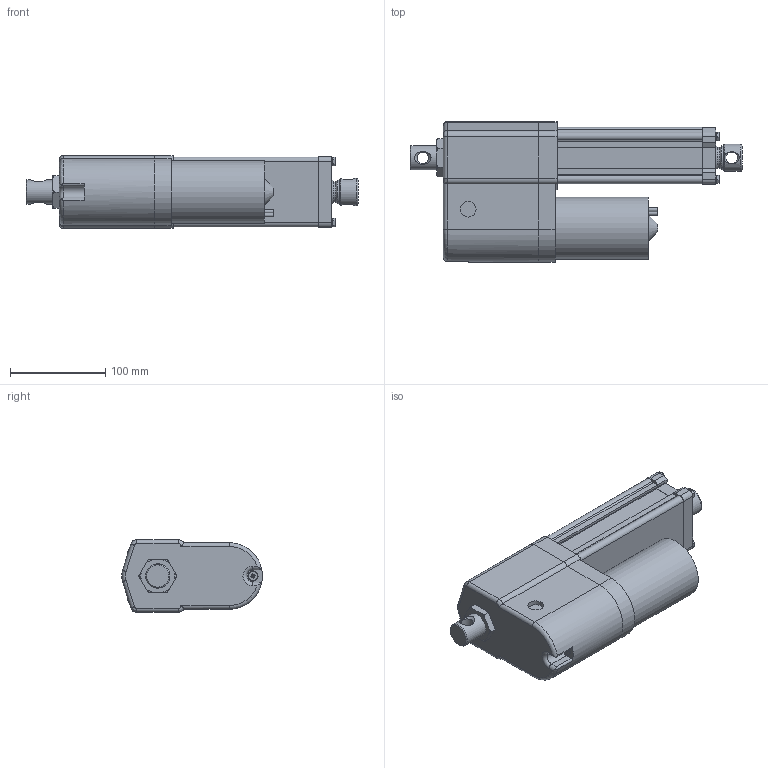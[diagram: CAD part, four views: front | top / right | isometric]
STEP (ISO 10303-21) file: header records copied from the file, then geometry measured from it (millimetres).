
FILE_DESCRIPTION( ( 'STEP AP203' ), '1' );
FILE_NAME( 'p:/temp/worker_280/temp/exporttempdir_4908_1655_BR1aL/format_0/DA24-21B65M05M0NPO-AMM.stp', '2020-04-12T18:20:58', ( 'License CC BY-ND 4.0' ), ( 'CADENAS' ), ' ', 'PARTsolutions', ' ' );
FILE_SCHEMA( ( 'CONFIG_CONTROL_DESIGN' ) );
Length unit declared in the file: millimetre
Products named in the file (8): DA24-21B65M05M0NPO-AMM; _ELECTRAK-LA14-DA24-21B65MM0NPO-05M-EU-REAR; _Electrak-10-EU-RA-D602700; _D602768eu; _ELECTRAK-LA14-DA24--MOTOR; _DA24-21B65M05M0NPOAMMtube; _ELECTRAK-LA14-DA24--05-PLATE; _ELECTRAK-LA14-DA24--0521B65MNPOM-ROD
Assembly tree (7 placements, depth 2):
  DA24-21B65M05M0NPO-AMM
    _ELECTRAK-LA14-DA24-21B65MM0NPO-05M-EU-REAR
    _Electrak-10-EU-RA-D602700
    _D602768eu
    _ELECTRAK-LA14-DA24--MOTOR
    _DA24-21B65M05M0NPOAMMtube
    _ELECTRAK-LA14-DA24--05-PLATE
    _ELECTRAK-LA14-DA24--0521B65MNPOM-ROD
Bounding box: 348.95 x 148 x 76.2 mm (x, y, z)
Volume: 1815080.2 mm3; surface area: 250781.9 mm2
Topology: 7 solids, 8 shells, 378 faces, 942 edges, 611 vertices
Faces by surface type: plane 184, cylinder 131, cone 45, torus 14, bspline 4
Full cylindrical faces by diameter (mm): 4 x2, 4.126 x1, 4.8 x5, 5 x5, 5.6 x4, 7.878 x4, 9.398 x1, 12.2 x2, 16 x1, 16.5 x1, 21.8 x1, 25.2 x1, 25.4 x1, 26.24 x1, 28.5 x1, 28.6 x2, 47.625 x1, 65.3 x1
Entity records: 11834 total; most frequent: CARTESIAN_POINT 2729, DIRECTION 1869, ORIENTED_EDGE 1744, EDGE_CURVE 872, AXIS2_PLACEMENT_3D 702, VERTEX_POINT 602, EDGE_LOOP 485, LINE 465
